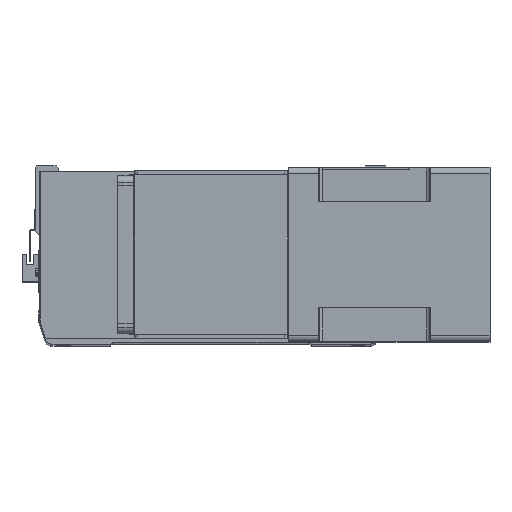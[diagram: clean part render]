
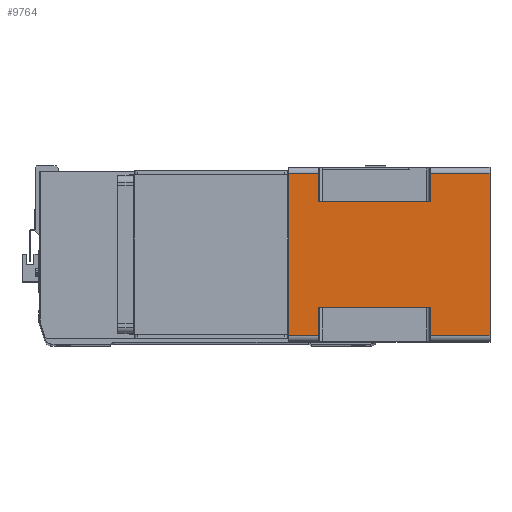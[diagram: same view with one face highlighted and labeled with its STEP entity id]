
A CAD part, top view. The second image highlights one B-rep face of the part: STEP entity #9764.
In plain terms, the highlighted planar face has unit normal (0, 0, 1) as drawn and (1, 0, 0) by its records, which use the part's own axes.
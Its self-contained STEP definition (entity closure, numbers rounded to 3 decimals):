
#185 = EDGE_CURVE ( 'NONE', #3359, #25966, #22519, .T. ) ;
#228 = VECTOR ( 'NONE', #10442, 1000. ) ;
#575 = CARTESIAN_POINT ( 'NONE',  ( 71., -66., -24.5 ) ) ;
#707 = VECTOR ( 'NONE', #29913, 1000. ) ;
#1408 = VERTEX_POINT ( 'NONE', #15973 ) ;
#2039 = VERTEX_POINT ( 'NONE', #28486 ) ;
#2138 = CARTESIAN_POINT ( 'NONE',  ( 71., -43., -164. ) ) ;
#2165 = LINE ( 'NONE', #18200, #707 ) ;
#2502 = CARTESIAN_POINT ( 'NONE',  ( 71., 66., -24.5 ) ) ;
#3136 = CARTESIAN_POINT ( 'NONE',  ( 71., 66., 0. ) ) ;
#3357 = CARTESIAN_POINT ( 'NONE',  ( 71., -66., -164. ) ) ;
#3359 = VERTEX_POINT ( 'NONE', #11585 ) ;
#3458 = VERTEX_POINT ( 'NONE', #16615 ) ;
#4261 = DIRECTION ( 'NONE',  ( 0., 0., 1. ) ) ;
#5104 = DIRECTION ( 'NONE',  ( 0., 0., -1. ) ) ;
#5816 = CARTESIAN_POINT ( 'NONE',  ( 71., 43., -24.5 ) ) ;
#6516 = PLANE ( 'NONE',  #28132 ) ;
#6704 = EDGE_CURVE ( 'NONE', #25966, #12584, #18404, .T. ) ;
#6715 = EDGE_CURVE ( 'NONE', #3359, #1408, #2165, .T. ) ;
#6796 = EDGE_CURVE ( 'NONE', #29531, #18462, #14749, .T. ) ;
#7087 = ORIENTED_EDGE ( 'NONE', *, *, #27607, .F. ) ;
#7344 = EDGE_CURVE ( 'NONE', #10908, #9676, #21179, .T. ) ;
#7911 = ORIENTED_EDGE ( 'NONE', *, *, #22849, .T. ) ;
#8281 = VECTOR ( 'NONE', #27585, 1000. ) ;
#8541 = LINE ( 'NONE', #13014, #228 ) ;
#8577 = VECTOR ( 'NONE', #17156, 1000. ) ;
#8883 = LINE ( 'NONE', #27214, #26651 ) ;
#9621 = DIRECTION ( 'NONE',  ( 0., -1., 0. ) ) ;
#9676 = VERTEX_POINT ( 'NONE', #15599 ) ;
#9764 = ADVANCED_FACE ( 'NONE', ( #28555 ), #6516, .T. ) ;
#9940 = CARTESIAN_POINT ( 'NONE',  ( 71., 43., -164. ) ) ;
#10226 = LINE ( 'NONE', #2138, #14864 ) ;
#10442 = DIRECTION ( 'NONE',  ( 0., 1., 0. ) ) ;
#10570 = VECTOR ( 'NONE', #25330, 1000. ) ;
#10908 = VERTEX_POINT ( 'NONE', #24094 ) ;
#11585 = CARTESIAN_POINT ( 'NONE',  ( 71., -66., -24.5 ) ) ;
#12530 = ORIENTED_EDGE ( 'NONE', *, *, #6796, .F. ) ;
#12580 = DIRECTION ( 'NONE',  ( 0., 0., 1. ) ) ;
#12584 = VERTEX_POINT ( 'NONE', #3136 ) ;
#12682 = DIRECTION ( 'NONE',  ( 0., 0., 1. ) ) ;
#13014 = CARTESIAN_POINT ( 'NONE',  ( 71., -66., -164. ) ) ;
#13051 = DIRECTION ( 'NONE',  ( 1., 0., 0. ) ) ;
#13757 = DIRECTION ( 'NONE',  ( 0., 1., 0. ) ) ;
#13877 = ORIENTED_EDGE ( 'NONE', *, *, #26209, .T. ) ;
#14371 = VECTOR ( 'NONE', #5104, 1000. ) ;
#14457 = ORIENTED_EDGE ( 'NONE', *, *, #27316, .T. ) ;
#14522 = VECTOR ( 'NONE', #9621, 1000. ) ;
#14749 = LINE ( 'NONE', #9940, #14371 ) ;
#14864 = VECTOR ( 'NONE', #4261, 1000. ) ;
#15414 = ORIENTED_EDGE ( 'NONE', *, *, #7344, .F. ) ;
#15599 = CARTESIAN_POINT ( 'NONE',  ( 71., -66., -115.5 ) ) ;
#15973 = CARTESIAN_POINT ( 'NONE',  ( 71., -43., -24.5 ) ) ;
#16615 = CARTESIAN_POINT ( 'NONE',  ( 71., 66., -115.5 ) ) ;
#17156 = DIRECTION ( 'NONE',  ( 0., -1., 0. ) ) ;
#17222 = ORIENTED_EDGE ( 'NONE', *, *, #6704, .F. ) ;
#17422 = VECTOR ( 'NONE', #25974, 1000. ) ;
#17991 = ORIENTED_EDGE ( 'NONE', *, *, #26076, .T. ) ;
#18017 = CARTESIAN_POINT ( 'NONE',  ( 71., -43., -115.5 ) ) ;
#18200 = CARTESIAN_POINT ( 'NONE',  ( 71., -43., -24.5 ) ) ;
#18282 = ORIENTED_EDGE ( 'NONE', *, *, #19834, .T. ) ;
#18404 = LINE ( 'NONE', #24937, #8281 ) ;
#18462 = VERTEX_POINT ( 'NONE', #26872 ) ;
#19154 = LINE ( 'NONE', #24916, #19543 ) ;
#19371 = VECTOR ( 'NONE', #12682, 1000. ) ;
#19543 = VECTOR ( 'NONE', #20301, 1000. ) ;
#19834 = EDGE_CURVE ( 'NONE', #29531, #29971, #29824, .T. ) ;
#20301 = DIRECTION ( 'NONE',  ( 0., 0., 1. ) ) ;
#20820 = EDGE_CURVE ( 'NONE', #2039, #3458, #19154, .T. ) ;
#21179 = LINE ( 'NONE', #3357, #19371 ) ;
#21534 = CARTESIAN_POINT ( 'NONE',  ( 71., -66., -115.5 ) ) ;
#22519 = LINE ( 'NONE', #25219, #10570 ) ;
#22849 = EDGE_CURVE ( 'NONE', #29971, #12584, #8883, .T. ) ;
#24094 = CARTESIAN_POINT ( 'NONE',  ( 71., -66., -164. ) ) ;
#24916 = CARTESIAN_POINT ( 'NONE',  ( 71., 66., -164. ) ) ;
#24937 = CARTESIAN_POINT ( 'NONE',  ( 71., -66., 0. ) ) ;
#24954 = VERTEX_POINT ( 'NONE', #18017 ) ;
#25043 = CARTESIAN_POINT ( 'NONE',  ( 71., -66., -164. ) ) ;
#25085 = LINE ( 'NONE', #21534, #14522 ) ;
#25219 = CARTESIAN_POINT ( 'NONE',  ( 71., -66., -164. ) ) ;
#25330 = DIRECTION ( 'NONE',  ( 0., 0., 1. ) ) ;
#25550 = ORIENTED_EDGE ( 'NONE', *, *, #20820, .T. ) ;
#25966 = VERTEX_POINT ( 'NONE', #28277 ) ;
#25974 = DIRECTION ( 'NONE',  ( 0., 1., 0. ) ) ;
#26068 = EDGE_LOOP ( 'NONE', ( #7087, #14457, #15414, #13877, #25550, #17991, #12530, #18282, #7911, #17222, #26463, #28066 ) ) ;
#26076 = EDGE_CURVE ( 'NONE', #3458, #18462, #26692, .T. ) ;
#26209 = EDGE_CURVE ( 'NONE', #10908, #2039, #8541, .T. ) ;
#26463 = ORIENTED_EDGE ( 'NONE', *, *, #185, .F. ) ;
#26651 = VECTOR ( 'NONE', #12580, 1000. ) ;
#26692 = LINE ( 'NONE', #28688, #8577 ) ;
#26872 = CARTESIAN_POINT ( 'NONE',  ( 71., 43., -115.5 ) ) ;
#27214 = CARTESIAN_POINT ( 'NONE',  ( 71., 66., -164. ) ) ;
#27316 = EDGE_CURVE ( 'NONE', #24954, #9676, #25085, .T. ) ;
#27585 = DIRECTION ( 'NONE',  ( 0., 1., 0. ) ) ;
#27607 = EDGE_CURVE ( 'NONE', #24954, #1408, #10226, .T. ) ;
#28066 = ORIENTED_EDGE ( 'NONE', *, *, #6715, .T. ) ;
#28132 = AXIS2_PLACEMENT_3D ( 'NONE', #25043, #13051, #13757 ) ;
#28277 = CARTESIAN_POINT ( 'NONE',  ( 71., -66., 0. ) ) ;
#28486 = CARTESIAN_POINT ( 'NONE',  ( 71., 66., -164. ) ) ;
#28555 = FACE_OUTER_BOUND ( 'NONE', #26068, .T. ) ;
#28688 = CARTESIAN_POINT ( 'NONE',  ( 71., 43., -115.5 ) ) ;
#29531 = VERTEX_POINT ( 'NONE', #5816 ) ;
#29824 = LINE ( 'NONE', #575, #17422 ) ;
#29913 = DIRECTION ( 'NONE',  ( 0., 1., 0. ) ) ;
#29971 = VERTEX_POINT ( 'NONE', #2502 ) ;
